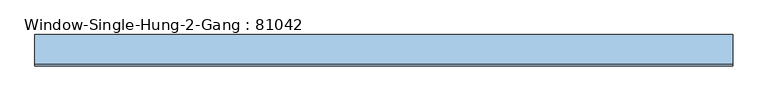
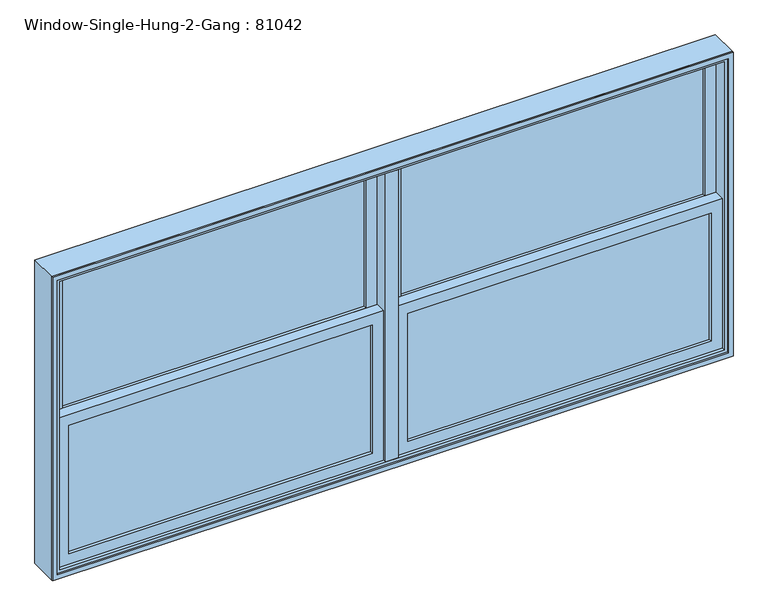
"""IFC4 building model written with IfcOpenShell, lengths in millimetres: window geometry, Window-Single-Hung-2-Gang : 81042."""

from ifc_helpers import new_model, si_unit, frame, origin, place, context, project, spatial, polyline, outline, extrude, source, transform, mapped, element, save


def window_single_hung_2_gang_81042_6f298152(model_context):
    return source(origin(), model_context, "Body", "SweptSolid", [
        extrude(outline(polyline([(-69.85, 34.925), (-69.85, 28.575), (-1270.0, 28.575), (-1270.0, 34.925), (-69.85, 34.925)])), frame((0.0, 0.0, 1571.625), z_axis=(0.0, 0.0, 1.0), x_axis=(1.0, 0.0, 0.0)), (0.0, 0.0, 1.0), 536.575),
        extrude(outline(polyline([(-69.85, 22.225), (-69.85, 15.875), (-1270.0, 15.875), (-1270.0, 22.225), (-69.85, 22.225)])), frame((0.0, 0.0, 1571.625), z_axis=(0.0, 0.0, 1.0), x_axis=(1.0, 0.0, 0.0)), (0.0, 0.0, 1.0), 536.575),
        extrude(outline(polyline([(-69.85, -9.525), (-69.85, -15.875), (-1270.0, -15.875), (-1270.0, -9.525), (-69.85, -9.525)])), frame((0.0, 0.0, 990.6), z_axis=(0.0, 0.0, 1.0), x_axis=(1.0, 0.0, 0.0)), (0.0, 0.0, 1.0), 536.575),
        extrude(outline(polyline([(-69.85, -22.225), (-69.85, -28.575), (-1270.0, -28.575), (-1270.0, -22.225), (-69.85, -22.225)])), frame((0.0, 0.0, 990.6), z_axis=(0.0, 0.0, 1.0), x_axis=(1.0, 0.0, 0.0)), (0.0, 0.0, 1.0), 536.575),
        extrude(outline(polyline([(946.15, -25.4), (1571.625, -25.4), (1571.625, -1314.45), (946.15, -1314.45), (946.15, -25.4)]), holes=[polyline([(990.6, -69.85), (990.6, -1270.0), (1527.175, -1270.0), (1527.175, -69.85), (990.6, -69.85)])]), frame((0.0, -41.275, 0.0), z_axis=(0.0, 1.0, 0.0), x_axis=(0.0, 0.0, 1.0)), (0.0, 0.0, 1.0), 44.45),
        extrude(outline(polyline([(1527.175, -25.4), (2152.65, -25.4), (2152.65, -1314.45), (1527.175, -1314.45), (1527.175, -25.4)]), holes=[polyline([(1571.625, -69.85), (1571.625, -1270.0), (2108.2, -1270.0), (2108.2, -69.85), (1571.625, -69.85)])]), frame((0.0, 3.175, 0.0), z_axis=(0.0, 1.0, 0.0), x_axis=(0.0, 0.0, 1.0)), (0.0, 0.0, 1.0), 44.45),
        extrude(outline(polyline([(1270.0, 34.925), (1270.0, 28.575), (69.85, 28.575), (69.85, 34.925), (1270.0, 34.925)])), frame((0.0, 0.0, 1571.625), z_axis=(0.0, 0.0, 1.0), x_axis=(1.0, 0.0, 0.0)), (0.0, 0.0, 1.0), 536.575),
        extrude(outline(polyline([(1270.0, 22.225), (1270.0, 15.875), (69.85, 15.875), (69.85, 22.225), (1270.0, 22.225)])), frame((0.0, 0.0, 1571.625), z_axis=(0.0, 0.0, 1.0), x_axis=(1.0, 0.0, 0.0)), (0.0, 0.0, 1.0), 536.575),
        extrude(outline(polyline([(1270.0, -9.525), (1270.0, -15.875), (69.85, -15.875), (69.85, -9.525), (1270.0, -9.525)])), frame((0.0, 0.0, 990.6), z_axis=(0.0, 0.0, 1.0), x_axis=(1.0, 0.0, 0.0)), (0.0, 0.0, 1.0), 536.575),
        extrude(outline(polyline([(1270.0, -22.225), (1270.0, -28.575), (69.85, -28.575), (69.85, -22.225), (1270.0, -22.225)])), frame((0.0, 0.0, 990.6), z_axis=(0.0, 0.0, 1.0), x_axis=(1.0, 0.0, 0.0)), (0.0, 0.0, 1.0), 536.575),
        extrude(outline(polyline([(946.15, 1314.45), (1571.625, 1314.45), (1571.625, 25.4), (946.15, 25.4), (946.15, 1314.45)]), holes=[polyline([(990.6, 1270.0), (990.6, 69.85), (1527.175, 69.85), (1527.175, 1270.0), (990.6, 1270.0)])]), frame((0.0, -41.275, 0.0), z_axis=(0.0, 1.0, 0.0), x_axis=(0.0, 0.0, 1.0)), (0.0, 0.0, 1.0), 44.45),
        extrude(outline(polyline([(1527.175, 1314.45), (2152.65, 1314.45), (2152.65, 25.4), (1527.175, 25.4), (1527.175, 1314.45)]), holes=[polyline([(1571.625, 1270.0), (1571.625, 69.85), (2108.2, 69.85), (2108.2, 1270.0), (1571.625, 1270.0)])]), frame((0.0, 3.175, 0.0), z_axis=(0.0, 1.0, 0.0), x_axis=(0.0, 0.0, 1.0)), (0.0, 0.0, 1.0), 44.45),
        extrude(outline(polyline([(2184.4, 1346.2), (2184.4, -1346.2), (914.4, -1346.2), (914.4, 1346.2), (2184.4, 1346.2)]), holes=[polyline([(2165.35, 1327.15), (933.45, 1327.15), (933.45, -1327.15), (2165.35, -1327.15), (2165.35, 1327.15)])]), frame((0.0, -60.325, 0.0), z_axis=(0.0, 1.0, 0.0), x_axis=(0.0, 0.0, 1.0)), (0.0, 0.0, 1.0), 6.35),
        extrude(outline(polyline([(2184.4, -1346.2), (914.4, -1346.2), (914.4, 1346.2), (2184.4, 1346.2), (2184.4, -1346.2)]), holes=[polyline([(2152.65, 1314.45), (946.15, 1314.45), (946.15, -1314.45), (2152.65, -1314.45), (2152.65, 1314.45)])]), frame((0.0, -53.975, 0.0), z_axis=(0.0, 1.0, 0.0), x_axis=(0.0, 0.0, 1.0)), (0.0, 0.0, 1.0), 114.3),
        extrude(outline(polyline([(25.4, -53.975), (-25.4, -53.975), (-25.4, 60.325), (25.4, 60.325), (25.4, -53.975)])), frame((0.0, 0.0, 946.15), z_axis=(0.0, 0.0, 1.0), x_axis=(1.0, 0.0, 0.0)), (0.0, 0.0, 1.0), 1206.5),
    ])


if __name__ == "__main__":
    model = new_model("IFC4")
    model_context = context("Model", 3, world=origin())
    ifc_project = project(units=[si_unit("LENGTHUNIT", "METRE", prefix="MILLI")], contexts=[model_context])
    site = spatial("IfcSite", under=ifc_project)
    building = spatial("IfcBuilding", under=site)
    placement = place(None, origin())
    window_single_hung_2_gang_81042_shape = window_single_hung_2_gang_81042_6f298152(model_context)
    element("IfcWindow", 1, ObjectType="Window-Single-Hung-2-Gang : 81042", at=placement, inside=building, context=model_context, shape_type="MappedRepresentation", body=[
        mapped(window_single_hung_2_gang_81042_shape, transform((0.0, 0.0, 0.0), x_axis=(1.0, 0.0, 0.0), y_axis=(0.0, 1.0, 0.0), z_axis=(0.0, 0.0, 1.0))),
    ])
    save(model, "model.ifc")
